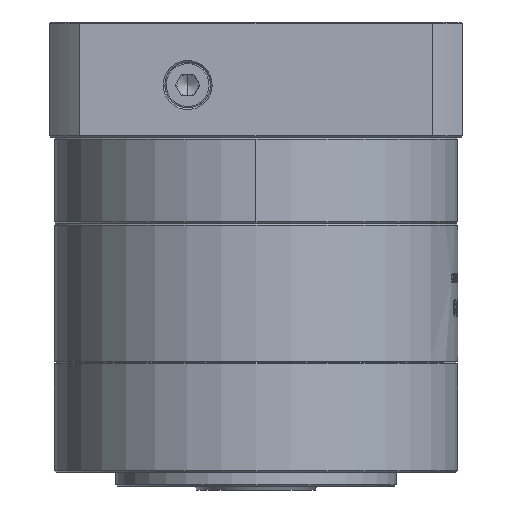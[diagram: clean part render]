
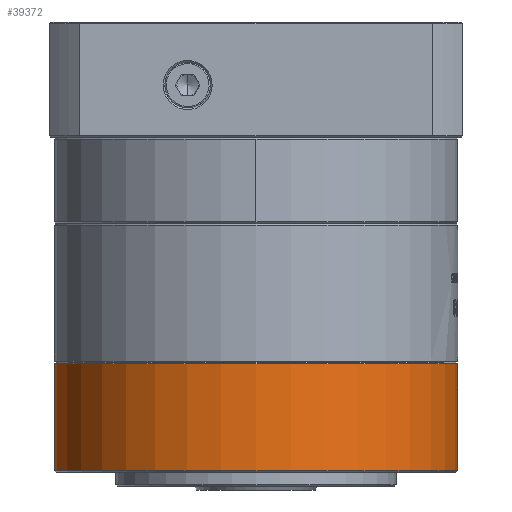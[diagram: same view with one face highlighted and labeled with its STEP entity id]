
A CAD part, left-side view. The second image highlights one B-rep face of the part: STEP entity #39372.
In plain terms, the highlighted cylindrical face has radius 57.5 mm (diameter 115 mm), a partial arc.
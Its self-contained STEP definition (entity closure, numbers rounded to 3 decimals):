
#1277 = DIRECTION ( 'NONE',  ( 0., 0., 1. ) ) ;
#4791 = FACE_OUTER_BOUND ( 'NONE', #40837, .T. ) ;
#7497 = VERTEX_POINT ( 'NONE', #21964 ) ;
#8187 = LINE ( 'NONE', #77329, #89345 ) ;
#10227 = AXIS2_PLACEMENT_3D ( 'NONE', #13824, #79211, #71019 ) ;
#10471 = DIRECTION ( 'NONE',  ( 0., 0., 1. ) ) ;
#10911 = AXIS2_PLACEMENT_3D ( 'NONE', #68305, #58793, #11861 ) ;
#11622 = VERTEX_POINT ( 'NONE', #33263 ) ;
#11861 = DIRECTION ( 'NONE',  ( 0., -1., 0. ) ) ;
#13824 = CARTESIAN_POINT ( 'NONE',  ( 48.354, 127.956, -111.724 ) ) ;
#18123 = CYLINDRICAL_SURFACE ( 'NONE', #10227, 57.5 ) ;
#21964 = CARTESIAN_POINT ( 'NONE',  ( 48.354, 70.456, -124.224 ) ) ;
#23664 = EDGE_CURVE ( 'NONE', #71242, #43205, #36340, .T. ) ;
#32427 = CIRCLE ( 'NONE', #10911, 57.5 ) ;
#32478 = ORIENTED_EDGE ( 'NONE', *, *, #23664, .F. ) ;
#33263 = CARTESIAN_POINT ( 'NONE',  ( 48.354, 185.456, -124.224 ) ) ;
#36340 = CIRCLE ( 'NONE', #53864, 57.5 ) ;
#39372 = ADVANCED_FACE ( 'NONE', ( #4791 ), #18123, .T. ) ;
#40837 = EDGE_LOOP ( 'NONE', ( #82529, #100106, #47004, #32478 ) ) ;
#43205 = VERTEX_POINT ( 'NONE', #89932 ) ;
#47004 = ORIENTED_EDGE ( 'NONE', *, *, #64538, .T. ) ;
#53202 = EDGE_CURVE ( 'NONE', #11622, #71242, #8187, .T. ) ;
#53864 = AXIS2_PLACEMENT_3D ( 'NONE', #85020, #1277, #58175 ) ;
#58175 = DIRECTION ( 'NONE',  ( 0., 1., 0. ) ) ;
#58793 = DIRECTION ( 'NONE',  ( 0., 0., 1. ) ) ;
#63004 = LINE ( 'NONE', #77573, #111654 ) ;
#64538 = EDGE_CURVE ( 'NONE', #7497, #43205, #63004, .T. ) ;
#68305 = CARTESIAN_POINT ( 'NONE',  ( 48.354, 127.956, -124.224 ) ) ;
#71019 = DIRECTION ( 'NONE',  ( 0., -1., 0. ) ) ;
#71242 = VERTEX_POINT ( 'NONE', #79477 ) ;
#77329 = CARTESIAN_POINT ( 'NONE',  ( 48.354, 185.456, -111.724 ) ) ;
#77573 = CARTESIAN_POINT ( 'NONE',  ( 48.354, 70.456, -111.724 ) ) ;
#79211 = DIRECTION ( 'NONE',  ( 0., 0., 1. ) ) ;
#79477 = CARTESIAN_POINT ( 'NONE',  ( 48.354, 185.456, -93.724 ) ) ;
#82529 = ORIENTED_EDGE ( 'NONE', *, *, #53202, .F. ) ;
#85020 = CARTESIAN_POINT ( 'NONE',  ( 48.354, 127.956, -93.724 ) ) ;
#89345 = VECTOR ( 'NONE', #113166, 1000. ) ;
#89932 = CARTESIAN_POINT ( 'NONE',  ( 48.354, 70.456, -93.724 ) ) ;
#100106 = ORIENTED_EDGE ( 'NONE', *, *, #116385, .T. ) ;
#111654 = VECTOR ( 'NONE', #10471, 1000. ) ;
#113166 = DIRECTION ( 'NONE',  ( 0., 0., 1. ) ) ;
#116385 = EDGE_CURVE ( 'NONE', #11622, #7497, #32427, .T. ) ;
